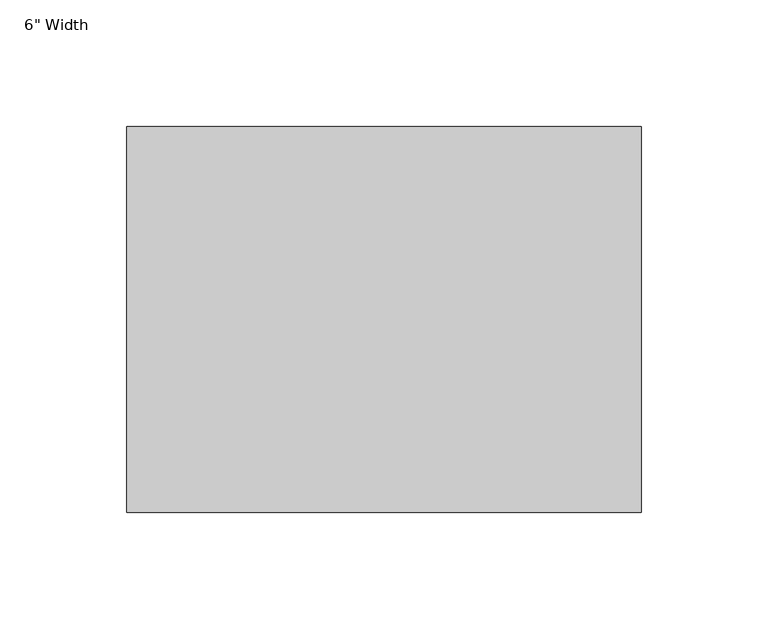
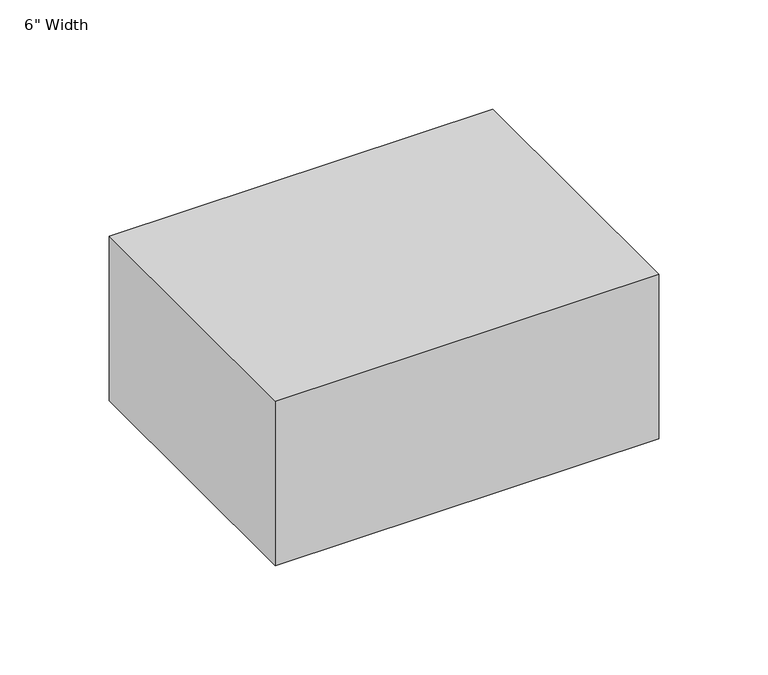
"""IFC4 building model written with IfcOpenShell, lengths in millimetres: proxy geometry."""

from ifc_helpers import new_model, si_unit, origin, origin_with_axes, place, context, project, spatial, polyline, outline, extrude, source, transform, mapped, element, save


def proxy_1b58b07c(model_context):
    return source(origin(), model_context, "Body", "SweptSolid", [
        extrude(outline(polyline([(101.6, 76.2), (101.6, -76.2), (-101.6, -76.2), (-101.6, 76.2), (101.6, 76.2)])), origin_with_axes(), (0.0, 0.0, 1.0), 92.075),
    ])


if __name__ == "__main__":
    model = new_model("IFC4")
    model_context = context("Model", 3, world=origin())
    ifc_project = project(units=[si_unit("LENGTHUNIT", "METRE", prefix="MILLI")], contexts=[model_context])
    site = spatial("IfcSite", under=ifc_project)
    building = spatial("IfcBuilding", under=site)
    placement = place(None, origin())
    proxy_shape = proxy_1b58b07c(model_context)
    element("IfcBuildingElementProxy", 1, Name="Transition-Wallduct-Wiremold : 6\" Width", ObjectType="Transition-Wallduct-Wiremold : 6\" Width", at=placement, inside=building, context=model_context, shape_type="MappedRepresentation", body=[
        mapped(proxy_shape, transform((0.0, 0.0, 0.0), x_axis=(1.0, 0.0, 0.0), y_axis=(0.0, 1.0, 0.0), z_axis=(0.0, 0.0, 1.0))),
    ])
    save(model, "model.ifc")
